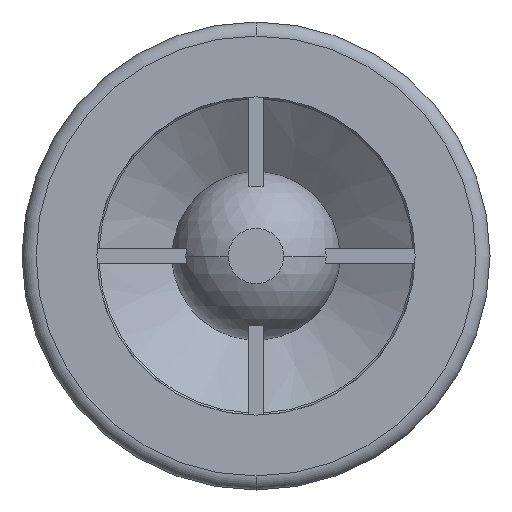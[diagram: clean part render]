
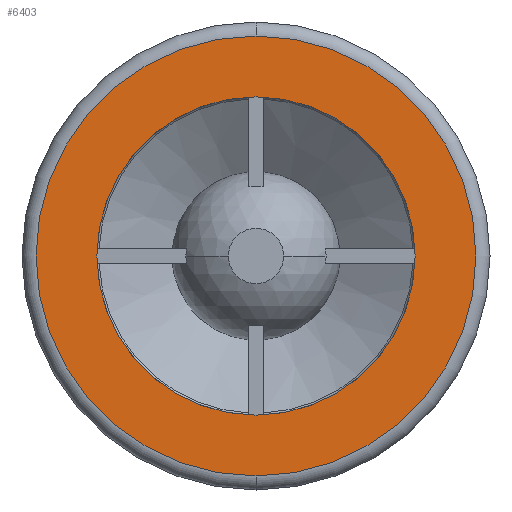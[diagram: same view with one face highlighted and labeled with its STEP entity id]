
A CAD part, front view. The second image highlights one B-rep face of the part: STEP entity #6403.
In plain terms, the highlighted planar face has unit normal (0, -1, 0).
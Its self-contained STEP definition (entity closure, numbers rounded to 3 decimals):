
#474 = VERTEX_POINT ( 'NONE', #1476 ) ;
#477 = EDGE_CURVE ( 'NONE', #474, #479, #1475, .T. ) ;
#479 = VERTEX_POINT ( 'NONE', #1465 ) ;
#1465 = CARTESIAN_POINT ( 'NONE',  ( 0., 0., 23.5 ) ) ;
#1471 = DIRECTION ( 'NONE',  ( 0., 0., 1. ) ) ;
#1472 = DIRECTION ( 'NONE',  ( 0., -1., 0. ) ) ;
#1473 = CARTESIAN_POINT ( 'NONE',  ( 0., 0., 0. ) ) ;
#1474 = AXIS2_PLACEMENT_3D ( 'NONE', #1473, #1472, #1471 ) ;
#1475 = CIRCLE ( 'NONE', #1474, 23.5 ) ;
#1476 = CARTESIAN_POINT ( 'NONE',  ( 0., 0., -23.5 ) ) ;
#2635 = DIRECTION ( 'NONE',  ( 0., 0., -1. ) ) ;
#2636 = DIRECTION ( 'NONE',  ( 0., -1., 0. ) ) ;
#2637 = CARTESIAN_POINT ( 'NONE',  ( 0., 0., 0. ) ) ;
#2638 = AXIS2_PLACEMENT_3D ( 'NONE', #2637, #2636, #2635 ) ;
#2639 = CIRCLE ( 'NONE', #2638, 17. ) ;
#2645 = CARTESIAN_POINT ( 'NONE',  ( 0., 0., 17. ) ) ;
#2657 = CARTESIAN_POINT ( 'NONE',  ( 0., 0., -17. ) ) ;
#2964 = DIRECTION ( 'NONE',  ( 0., 0., 1. ) ) ;
#2965 = DIRECTION ( 'NONE',  ( 0., -1., 0. ) ) ;
#2966 = AXIS2_PLACEMENT_3D ( 'NONE', #2975, #2965, #2964 ) ;
#2967 = CIRCLE ( 'NONE', #2966, 23.5 ) ;
#2975 = CARTESIAN_POINT ( 'NONE',  ( 0., 0., 0. ) ) ;
#4143 = DIRECTION ( 'NONE',  ( 0., 0., 1. ) ) ;
#4144 = DIRECTION ( 'NONE',  ( 0., 1., 0. ) ) ;
#4145 = CARTESIAN_POINT ( 'NONE',  ( -17., 0., 0. ) ) ;
#4146 = AXIS2_PLACEMENT_3D ( 'NONE', #4145, #4144, #4143 ) ;
#4148 = PLANE ( 'NONE',  #4146 ) ;
#4149 = FACE_BOUND ( 'NONE', #5727, .T. ) ;
#4154 = FACE_OUTER_BOUND ( 'NONE', #5273, .T. ) ;
#4666 = DIRECTION ( 'NONE',  ( 0., 0., -1. ) ) ;
#4667 = DIRECTION ( 'NONE',  ( 0., -1., 0. ) ) ;
#4668 = CARTESIAN_POINT ( 'NONE',  ( 0., 0., 0. ) ) ;
#4669 = AXIS2_PLACEMENT_3D ( 'NONE', #4668, #4667, #4666 ) ;
#4670 = CIRCLE ( 'NONE', #4669, 17. ) ;
#5273 = EDGE_LOOP ( 'NONE', ( #5321, #5745 ) ) ;
#5321 = ORIENTED_EDGE ( 'NONE', *, *, #5754, .T. ) ;
#5562 = VERTEX_POINT ( 'NONE', #2657 ) ;
#5569 = VERTEX_POINT ( 'NONE', #2645 ) ;
#5570 = EDGE_CURVE ( 'NONE', #5569, #5562, #2639, .T. ) ;
#5695 = ORIENTED_EDGE ( 'NONE', *, *, #5570, .F. ) ;
#5720 = ORIENTED_EDGE ( 'NONE', *, *, #6732, .F. ) ;
#5727 = EDGE_LOOP ( 'NONE', ( #5720, #5695 ) ) ;
#5745 = ORIENTED_EDGE ( 'NONE', *, *, #477, .T. ) ;
#5754 = EDGE_CURVE ( 'NONE', #479, #474, #2967, .T. ) ;
#6403 = ADVANCED_FACE ( 'NONE', ( #4154, #4149 ), #4148, .F. ) ;
#6732 = EDGE_CURVE ( 'NONE', #5562, #5569, #4670, .T. ) ;
